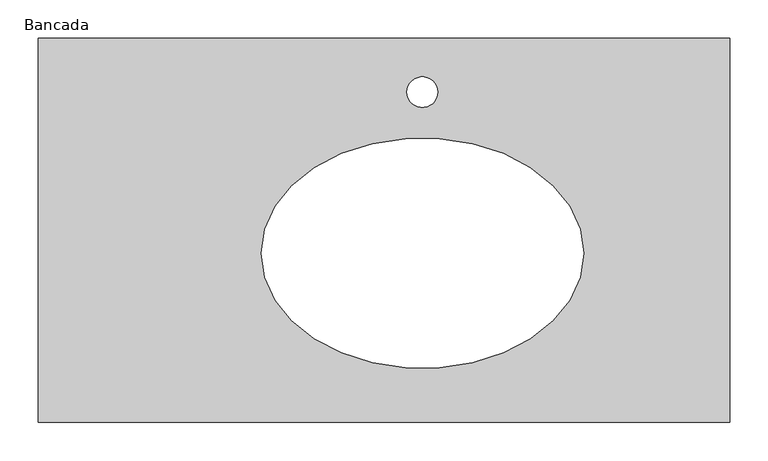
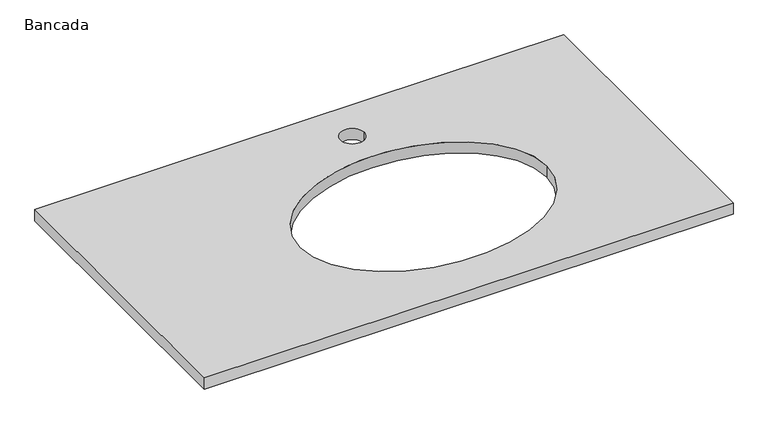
"""IFC4 building model written with IfcOpenShell, lengths in millimetres: furniture geometry, Bancada Retangular para lavatório Cuba Oval com Torneira Chanfro : Bancada."""

from ifc_helpers import new_model, si_unit, point, frame, origin, place, context, project, spatial, polyline, circle_curve, ellipse_curve, trimmed, source, transform, mapped, element, save
from ifc_brep_helpers import plane_surface, revolved_surface, extruded_surface, advanced_brep


def bancada_42d4f672(model_context):
    return source(origin(), model_context, "Body", "AdvancedBrep", [
        advanced_brep(
        [(324.7003264, -500.0, 1000.0), (324.7003264, 0.0, 1000.0), (-575.2996736, 0.0, 1000.0), (-575.2996736, -500.0, 1000.0), (-55.4142184, -70.0, 1000.0), (-95.4142184, -70.0, 1000.0), (-285.2996736, -279.7230202, 1000.0), (134.7003264, -279.7230202, 1000.0), (324.7003264, -500.0, 980.0), (-575.2996736, -500.0, 980.0), (-575.2996736, 0.0, 980.0), (324.7003264, 0.0, 980.0), (-95.4142184, -70.0, 980.0), (-55.4142184, -70.0, 980.0), (134.7003264, -279.7230202, 980.0), (-285.2996736, -279.7230202, 980.0)],
        [
            (0, 1),
            (1, 2),
            (2, 3),
            (3, 0),
            (4, 5, circle_curve(frame((-75.4142184, -70.0, 1000.0), z_axis=(0.0, 0.0, -1.0), x_axis=(1.0, 0.0, 0.0)), 20.0)),
            (5, 4, circle_curve(frame((-75.4142184, -70.0, 1000.0), z_axis=(0.0, 0.0, -1.0), x_axis=(1.0, 0.0, 0.0)), 20.0)),
            (6, 7, ellipse_curve(frame((-75.2996736, -279.7230202, 1000.0), z_axis=(0.0, 0.0, -1.0), x_axis=(-1.0, 0.0, 0.0)), 210.0, 150.0)),
            (7, 6, ellipse_curve(frame((-75.2996736, -279.7230202, 1000.0), z_axis=(0.0, 0.0, -1.0), x_axis=(-1.0, 0.0, 0.0)), 210.0, 150.0)),
            (8, 9),
            (9, 10),
            (10, 11),
            (11, 8),
            (12, 13, circle_curve(frame((-75.4142184, -70.0, 980.0), z_axis=(0.0, 0.0, 1.0), x_axis=(1.0, 0.0, 0.0)), 20.0)),
            (13, 12, circle_curve(frame((-75.4142184, -70.0, 980.0), z_axis=(0.0, 0.0, 1.0), x_axis=(1.0, 0.0, 0.0)), 20.0)),
            (14, 15, ellipse_curve(frame((-75.2996736, -279.7230202, 980.0), z_axis=(0.0, 0.0, 1.0), x_axis=(-1.0, 0.0, 0.0)), 210.0, 150.0)),
            (15, 14, ellipse_curve(frame((-75.2996736, -279.7230202, 980.0), z_axis=(0.0, 0.0, 1.0), x_axis=(-1.0, 0.0, 0.0)), 210.0, 150.0)),
            (0, 8),
            (11, 1),
            (10, 2),
            (9, 3),
            (12, 5),
            (4, 13),
            (14, 7),
            (6, 15),
        ],
        [
            plane_surface(frame((324.7003264, -500.0, 1000.0), z_axis=(0.0, 0.0, 1.0), x_axis=(0.0, 1.0, 0.0))),
            plane_surface(frame((324.7003264, -500.0, 980.0), z_axis=(0.0, 0.0, -1.0), x_axis=(0.0, -1.0, 0.0))),
            plane_surface(frame((324.7003264, -500.0, 1000.0), z_axis=(1.0, 0.0, 0.0), x_axis=(0.0, 0.0, -1.0))),
            plane_surface(frame((324.7003264, 0.0, 1000.0), z_axis=(0.0, 1.0, 0.0), x_axis=(0.0, 0.0, -1.0))),
            plane_surface(frame((-575.2996736, 0.0, 1000.0), z_axis=(-1.0, 0.0, 0.0), x_axis=(0.0, 0.0, -1.0))),
            plane_surface(frame((-575.2996736, -500.0, 1000.0), z_axis=(0.0, -1.0, 0.0), x_axis=(0.0, 0.0, -1.0))),
            revolved_surface(polyline([(-55.414218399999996, -70.0, 1000.0), (-55.414218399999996, -70.0, 980.0)]), (-75.4142184, -70.0, 680.0), (0.0, 0.0, 1.0)),
            extruded_surface(trimmed(ellipse_curve(frame((-75.2996736, -279.7230202, 680.0), z_axis=(0.0, 0.0, 1.0), x_axis=(-1.0, 0.0, 0.0)), 210.0, 150.0), [point((134.7003264, -279.7230202, 680.0))], [point((-285.2996736, -279.7230202, 680.0))], True, "CARTESIAN"), (0.0, 0.0, -320.0), 320.0),
            extruded_surface(trimmed(ellipse_curve(frame((-75.2996736, -279.7230202, 680.0), z_axis=(0.0, 0.0, 1.0), x_axis=(-1.0, 0.0, 0.0)), 210.0, 150.0), [point((-285.2996736, -279.7230202, 680.0))], [point((134.7003264, -279.7230202, 680.0))], True, "CARTESIAN"), (0.0, 0.0, -320.0), 320.0),
        ],
        [
            (0, [[1, 2, 3, 4], [5, 6], [7, 8]]),
            (1, [[9, 10, 11, 12], [13, 14], [15, 16]]),
            (2, [[-1, 17, -12, 18]]),
            (3, [[-2, -18, -11, 19]]),
            (4, [[-3, -19, -10, 20]]),
            (5, [[-4, -20, -9, -17]]),
            (6, [[21, -5, 22, -13]]),
            (6, [[-21, -14, -22, -6]]),
            (7, [[23, -7, 24, -15]]),
            (8, [[-23, -16, -24, -8]]),
        ],
    ),
    ])


if __name__ == "__main__":
    model = new_model("IFC4")
    model_context = context("Model", 3, world=origin())
    ifc_project = project(units=[si_unit("LENGTHUNIT", "METRE", prefix="MILLI")], contexts=[model_context])
    site = spatial("IfcSite", under=ifc_project)
    building = spatial("IfcBuilding", under=site)
    placement = place(None, origin())
    bancada_shape = bancada_42d4f672(model_context)
    element("IfcFurniture", 1, ObjectType="Bancada Retangular para lavatório Cuba Oval com Torneira Chanfro : Bancada", at=placement, inside=building, context=model_context, shape_type="MappedRepresentation", body=[
        mapped(bancada_shape, transform((0.0, 0.0, 0.0), x_axis=(1.0, 0.0, 0.0), y_axis=(0.0, 1.0, 0.0), z_axis=(0.0, 0.0, 1.0))),
    ])
    save(model, "model.ifc")
